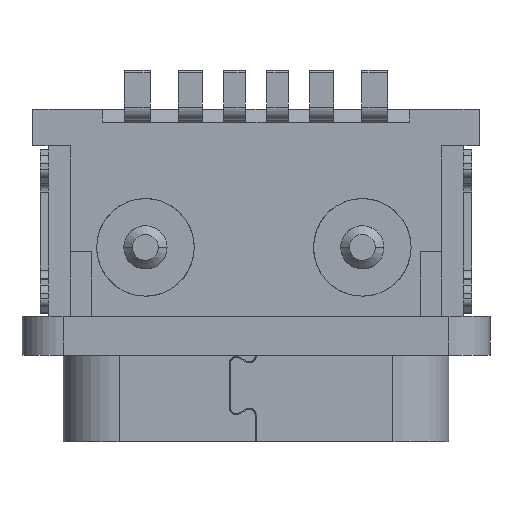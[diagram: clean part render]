
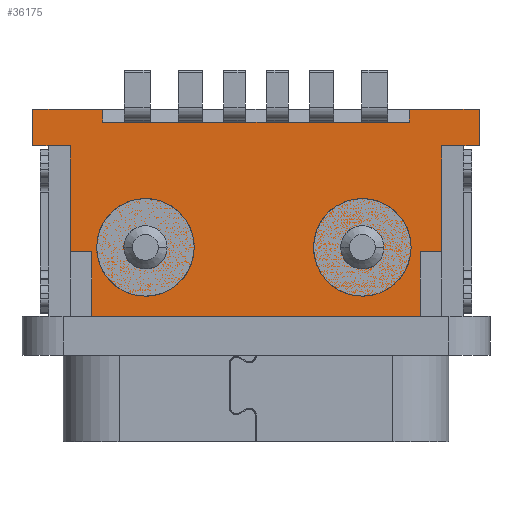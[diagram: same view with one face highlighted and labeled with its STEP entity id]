
A CAD part, front view. The second image highlights one B-rep face of the part: STEP entity #36175.
In plain terms, the highlighted planar face has unit normal (0, -1, 0).
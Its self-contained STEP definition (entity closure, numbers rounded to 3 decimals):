
#35065=DIRECTION('',(-1.,0.,0.));
#35066=VECTOR('',#35065,7.6);
#35067=CARTESIAN_POINT('',(33.8,-2.16,2.9));
#35068=LINE('',#35067,#35066);
#35069=DIRECTION('',(0.,0.,1.));
#35070=VECTOR('',#35069,1.5);
#35071=CARTESIAN_POINT('',(26.2,-2.16,2.9));
#35072=LINE('',#35071,#35070);
#35073=DIRECTION('',(-1.,0.,0.));
#35074=VECTOR('',#35073,0.5);
#35075=CARTESIAN_POINT('',(26.2,-2.16,4.4));
#35076=LINE('',#35075,#35074);
#35077=DIRECTION('',(0.,0.,-1.));
#35078=VECTOR('',#35077,0.3);
#35079=CARTESIAN_POINT('',(26.45,-2.16,7.7));
#35080=LINE('',#35079,#35078);
#35081=DIRECTION('',(0.,0.,1.));
#35082=VECTOR('',#35081,0.3);
#35083=CARTESIAN_POINT('',(33.55,-2.16,7.4));
#35084=LINE('',#35083,#35082);
#35085=DIRECTION('',(-1.,0.,0.));
#35086=VECTOR('',#35085,0.5);
#35087=CARTESIAN_POINT('',(34.3,-2.16,4.4));
#35088=LINE('',#35087,#35086);
#35089=DIRECTION('',(0.,0.,-1.));
#35090=VECTOR('',#35089,1.5);
#35091=CARTESIAN_POINT('',(33.8,-2.16,4.4));
#35092=LINE('',#35091,#35090);
#35093=CARTESIAN_POINT('',(27.439,-2.16,4.5));
#35094=DIRECTION('',(0.,-1.,0.));
#35095=DIRECTION('',(1.,0.,0.));
#35096=AXIS2_PLACEMENT_3D('',#35093,#35094,#35095);
#35098=CARTESIAN_POINT('',(27.439,-2.16,4.5));
#35099=DIRECTION('',(0.,-1.,0.));
#35100=DIRECTION('',(-1.,0.,0.));
#35101=AXIS2_PLACEMENT_3D('',#35098,#35099,#35100);
#35103=CARTESIAN_POINT('',(32.463,-2.16,4.5));
#35104=DIRECTION('',(0.,-1.,0.));
#35105=DIRECTION('',(1.,0.,0.));
#35106=AXIS2_PLACEMENT_3D('',#35103,#35104,#35105);
#35108=CARTESIAN_POINT('',(32.463,-2.16,4.5));
#35109=DIRECTION('',(0.,-1.,0.));
#35110=DIRECTION('',(-1.,0.,0.));
#35111=AXIS2_PLACEMENT_3D('',#35108,#35109,#35110);
#35125=DIRECTION('',(0.,0.,-1.));
#35126=VECTOR('',#35125,2.45);
#35127=CARTESIAN_POINT('',(25.7,-2.16,6.85));
#35128=LINE('',#35127,#35126);
#35193=DIRECTION('',(0.,0.,1.));
#35194=VECTOR('',#35193,2.45);
#35195=CARTESIAN_POINT('',(34.3,-2.16,4.4));
#35196=LINE('',#35195,#35194);
#35229=DIRECTION('',(1.,0.,0.));
#35230=VECTOR('',#35229,0.87);
#35231=CARTESIAN_POINT('',(34.3,-2.16,6.85));
#35232=LINE('',#35231,#35230);
#35243=DIRECTION('',(1.,0.,0.));
#35244=VECTOR('',#35243,0.87);
#35245=CARTESIAN_POINT('',(24.83,-2.16,6.85));
#35246=LINE('',#35245,#35244);
#35277=DIRECTION('',(0.,0.,1.));
#35278=VECTOR('',#35277,0.85);
#35279=CARTESIAN_POINT('',(35.17,-2.16,6.85));
#35280=LINE('',#35279,#35278);
#35293=DIRECTION('',(-1.,0.,0.));
#35294=VECTOR('',#35293,1.62);
#35295=CARTESIAN_POINT('',(26.45,-2.16,7.7));
#35296=LINE('',#35295,#35294);
#35307=DIRECTION('',(-1.,0.,0.));
#35308=VECTOR('',#35307,1.62);
#35309=CARTESIAN_POINT('',(35.17,-2.16,7.7));
#35310=LINE('',#35309,#35308);
#35415=DIRECTION('',(-1.,0.,0.));
#35416=VECTOR('',#35415,7.1);
#35417=CARTESIAN_POINT('',(33.55,-2.16,7.4));
#35418=LINE('',#35417,#35416);
#35447=DIRECTION('',(0.,0.,-1.));
#35448=VECTOR('',#35447,0.85);
#35449=CARTESIAN_POINT('',(24.83,-2.16,7.7));
#35450=LINE('',#35449,#35448);
#35658=CARTESIAN_POINT('',(33.55,-2.16,7.4));
#35659=CARTESIAN_POINT('',(33.55,-2.16,7.7));
#35660=VERTEX_POINT('',#35658);
#35661=VERTEX_POINT('',#35659);
#35726=CARTESIAN_POINT('',(33.8,-2.16,2.9));
#35727=CARTESIAN_POINT('',(26.2,-2.16,2.9));
#35728=VERTEX_POINT('',#35726);
#35729=VERTEX_POINT('',#35727);
#35752=CARTESIAN_POINT('',(26.2,-2.16,4.4));
#35753=VERTEX_POINT('',#35752);
#35754=CARTESIAN_POINT('',(25.7,-2.16,4.4));
#35755=VERTEX_POINT('',#35754);
#35756=CARTESIAN_POINT('',(25.7,-2.16,6.85));
#35757=VERTEX_POINT('',#35756);
#35758=CARTESIAN_POINT('',(26.45,-2.16,7.7));
#35759=CARTESIAN_POINT('',(24.83,-2.16,7.7));
#35760=VERTEX_POINT('',#35758);
#35761=VERTEX_POINT('',#35759);
#35762=CARTESIAN_POINT('',(26.45,-2.16,7.4));
#35763=VERTEX_POINT('',#35762);
#35764=CARTESIAN_POINT('',(35.17,-2.16,7.7));
#35765=VERTEX_POINT('',#35764);
#35766=CARTESIAN_POINT('',(34.3,-2.16,4.4));
#35767=CARTESIAN_POINT('',(34.3,-2.16,6.85));
#35768=VERTEX_POINT('',#35766);
#35769=VERTEX_POINT('',#35767);
#35770=CARTESIAN_POINT('',(33.8,-2.16,4.4));
#35771=VERTEX_POINT('',#35770);
#35772=CARTESIAN_POINT('',(27.939,-2.16,4.5));
#35773=CARTESIAN_POINT('',(26.939,-2.16,4.5));
#35774=VERTEX_POINT('',#35772);
#35775=VERTEX_POINT('',#35773);
#35776=CARTESIAN_POINT('',(32.963,-2.16,4.5));
#35777=CARTESIAN_POINT('',(31.963,-2.16,4.5));
#35778=VERTEX_POINT('',#35776);
#35779=VERTEX_POINT('',#35777);
#35837=CARTESIAN_POINT('',(35.17,-2.16,6.85));
#35839=VERTEX_POINT('',#35837);
#35846=CARTESIAN_POINT('',(24.83,-2.16,6.85));
#35847=VERTEX_POINT('',#35846);
#36125=CARTESIAN_POINT('',(35.17,-2.16,8.35));
#36126=DIRECTION('',(0.,1.,0.));
#36127=DIRECTION('',(1.,0.,0.));
#36128=AXIS2_PLACEMENT_3D('',#36125,#36126,#36127);
#36129=PLANE('',#36128);
#36130=ORIENTED_EDGE('',*,*,#36094,.T.);
#36132=ORIENTED_EDGE('',*,*,#36131,.T.);
#36134=ORIENTED_EDGE('',*,*,#36133,.T.);
#36136=ORIENTED_EDGE('',*,*,#36135,.F.);
#36138=ORIENTED_EDGE('',*,*,#36137,.F.);
#36140=ORIENTED_EDGE('',*,*,#36139,.F.);
#36142=ORIENTED_EDGE('',*,*,#36141,.F.);
#36144=ORIENTED_EDGE('',*,*,#36143,.T.);
#36146=ORIENTED_EDGE('',*,*,#36145,.F.);
#36148=ORIENTED_EDGE('',*,*,#36147,.T.);
#36150=ORIENTED_EDGE('',*,*,#36149,.F.);
#36152=ORIENTED_EDGE('',*,*,#36151,.F.);
#36154=ORIENTED_EDGE('',*,*,#36153,.F.);
#36156=ORIENTED_EDGE('',*,*,#36155,.F.);
#36158=ORIENTED_EDGE('',*,*,#36157,.T.);
#36160=ORIENTED_EDGE('',*,*,#36159,.T.);
#36161=EDGE_LOOP('',(#36130,#36132,#36134,#36136,#36138,#36140,#36142,#36144,
#36146,#36148,#36150,#36152,#36154,#36156,#36158,#36160));
#36162=FACE_OUTER_BOUND('',#36161,.F.);
#36164=ORIENTED_EDGE('',*,*,#36163,.T.);
#36166=ORIENTED_EDGE('',*,*,#36165,.T.);
#36167=EDGE_LOOP('',(#36164,#36166));
#36168=FACE_BOUND('',#36167,.F.);
#36170=ORIENTED_EDGE('',*,*,#36169,.T.);
#36172=ORIENTED_EDGE('',*,*,#36171,.T.);
#36173=EDGE_LOOP('',(#36170,#36172));
#36174=FACE_BOUND('',#36173,.F.);
#36175=ADVANCED_FACE('',(#36162,#36168,#36174),#36129,.F.);
#35097=CIRCLE('',#35096,0.5);
#35102=CIRCLE('',#35101,0.5);
#35107=CIRCLE('',#35106,0.5);
#35112=CIRCLE('',#35111,0.5);
#36094=EDGE_CURVE('',#35728,#35729,#35068,.T.);
#36131=EDGE_CURVE('',#35729,#35753,#35072,.T.);
#36133=EDGE_CURVE('',#35753,#35755,#35076,.T.);
#36135=EDGE_CURVE('',#35757,#35755,#35128,.T.);
#36137=EDGE_CURVE('',#35847,#35757,#35246,.T.);
#36139=EDGE_CURVE('',#35761,#35847,#35450,.T.);
#36141=EDGE_CURVE('',#35760,#35761,#35296,.T.);
#36143=EDGE_CURVE('',#35760,#35763,#35080,.T.);
#36145=EDGE_CURVE('',#35660,#35763,#35418,.T.);
#36147=EDGE_CURVE('',#35660,#35661,#35084,.T.);
#36149=EDGE_CURVE('',#35765,#35661,#35310,.T.);
#36151=EDGE_CURVE('',#35839,#35765,#35280,.T.);
#36153=EDGE_CURVE('',#35769,#35839,#35232,.T.);
#36155=EDGE_CURVE('',#35768,#35769,#35196,.T.);
#36157=EDGE_CURVE('',#35768,#35771,#35088,.T.);
#36159=EDGE_CURVE('',#35771,#35728,#35092,.T.);
#36163=EDGE_CURVE('',#35774,#35775,#35097,.T.);
#36165=EDGE_CURVE('',#35775,#35774,#35102,.T.);
#36169=EDGE_CURVE('',#35778,#35779,#35107,.T.);
#36171=EDGE_CURVE('',#35779,#35778,#35112,.T.);
